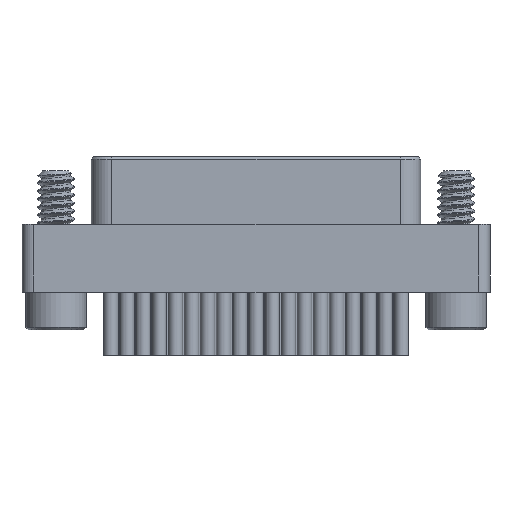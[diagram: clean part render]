
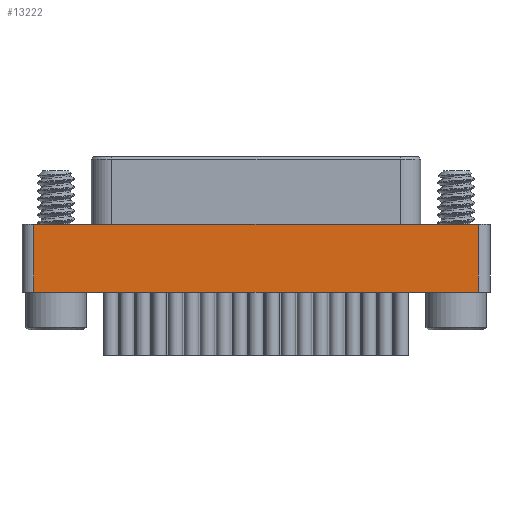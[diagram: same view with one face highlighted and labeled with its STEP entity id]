
A CAD part, front view. The second image highlights one B-rep face of the part: STEP entity #13222.
In plain terms, the highlighted planar face has unit normal (0, -1, 0).
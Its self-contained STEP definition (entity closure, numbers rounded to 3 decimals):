
#3550=DIRECTION('',(0.,0.,-1.));
#3551=VECTOR('',#3550,2.667);
#3552=CARTESIAN_POINT('',(-8.75,-1.588,-2.667));
#3553=LINE('',#3552,#3551);
#3554=DIRECTION('',(-1.,0.,0.));
#3555=VECTOR('',#3554,17.501);
#3556=CARTESIAN_POINT('',(8.75,-1.588,-2.667));
#3557=LINE('',#3556,#3555);
#3558=DIRECTION('',(0.,0.,1.));
#3559=VECTOR('',#3558,2.667);
#3560=CARTESIAN_POINT('',(8.75,-1.588,-5.334));
#3561=LINE('',#3560,#3559);
#3562=DIRECTION('',(1.,0.,0.));
#3563=VECTOR('',#3562,17.501);
#3564=CARTESIAN_POINT('',(-8.75,-1.588,-5.334));
#3565=LINE('',#3564,#3563);
#6968=CARTESIAN_POINT('',(-8.75,-1.588,-5.334));
#6970=VERTEX_POINT('',#6968);
#6974=CARTESIAN_POINT('',(-8.75,-1.588,-2.667));
#6975=VERTEX_POINT('',#6974);
#6992=CARTESIAN_POINT('',(8.75,-1.588,-2.667));
#6994=VERTEX_POINT('',#6992);
#6998=CARTESIAN_POINT('',(8.75,-1.588,-5.334));
#6999=VERTEX_POINT('',#6998);
#13210=CARTESIAN_POINT('',(0.,-1.588,0.));
#13211=DIRECTION('',(0.,-1.,0.));
#13212=DIRECTION('',(-1.,0.,0.));
#13213=AXIS2_PLACEMENT_3D('',#13210,#13211,#13212);
#13214=PLANE('',#13213);
#13215=ORIENTED_EDGE('',*,*,#12950,.F.);
#13216=ORIENTED_EDGE('',*,*,#8303,.F.);
#13218=ORIENTED_EDGE('',*,*,#13217,.F.);
#13219=ORIENTED_EDGE('',*,*,#12961,.F.);
#13220=EDGE_LOOP('',(#13215,#13216,#13218,#13219));
#13221=FACE_OUTER_BOUND('',#13220,.F.);
#8303=EDGE_CURVE('',#6994,#6975,#3557,.T.);
#12950=EDGE_CURVE('',#6975,#6970,#3553,.T.);
#12961=EDGE_CURVE('',#6970,#6999,#3565,.T.);
#13217=EDGE_CURVE('',#6999,#6994,#3561,.T.);
#13222=ADVANCED_FACE('',(#13221),#13214,.T.);
